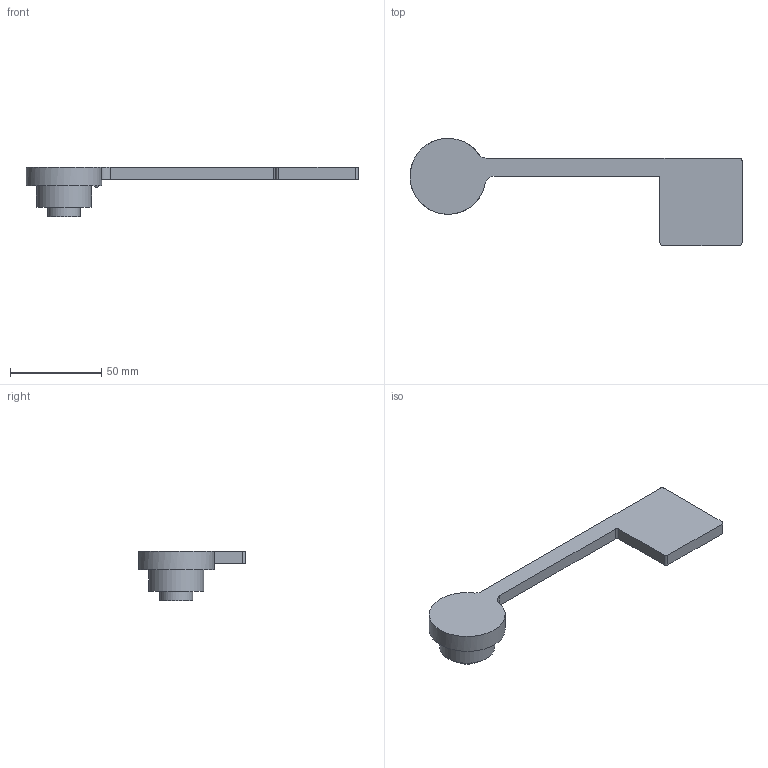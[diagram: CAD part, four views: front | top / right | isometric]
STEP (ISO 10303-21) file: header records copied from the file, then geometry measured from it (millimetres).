
FILE_DESCRIPTION( ( '' ), ' ' );
FILE_NAME( '/vol/tmp/translate-7206855013695796612/5ae2e563612ee40fb1981580.step', '2018-04-27T08:55:00', ( '' ), ( '' ), ' ', ' ', ' ' );
FILE_SCHEMA( ( 'AUTOMOTIVE_DESIGN { 1 0 10303 214 1 1 1 1 }' ) );
Length unit declared in the file: metre
Products named in the file (1): Flag 2015
Bounding box: 182.16 x 58.8 x 27 mm (x, y, z)
Volume: 44166.4 mm3; surface area: 14058.6 mm2
Topology: 1 solids, 1 shells, 21 faces, 49 edges, 33 vertices
Faces by surface type: plane 11, cylinder 9, cone 1
Full cylindrical faces by diameter (mm): 18 x1, 30.2 x1, 41.7 x1
Entity records: 758 total; most frequent: DIRECTION 108, CARTESIAN_POINT 96, ORIENTED_EDGE 86, AXIS2_PLACEMENT_3D 43, EDGE_CURVE 43, VERTEX_POINT 31, EDGE_LOOP 28, FACE_OUTER_BOUND 24
